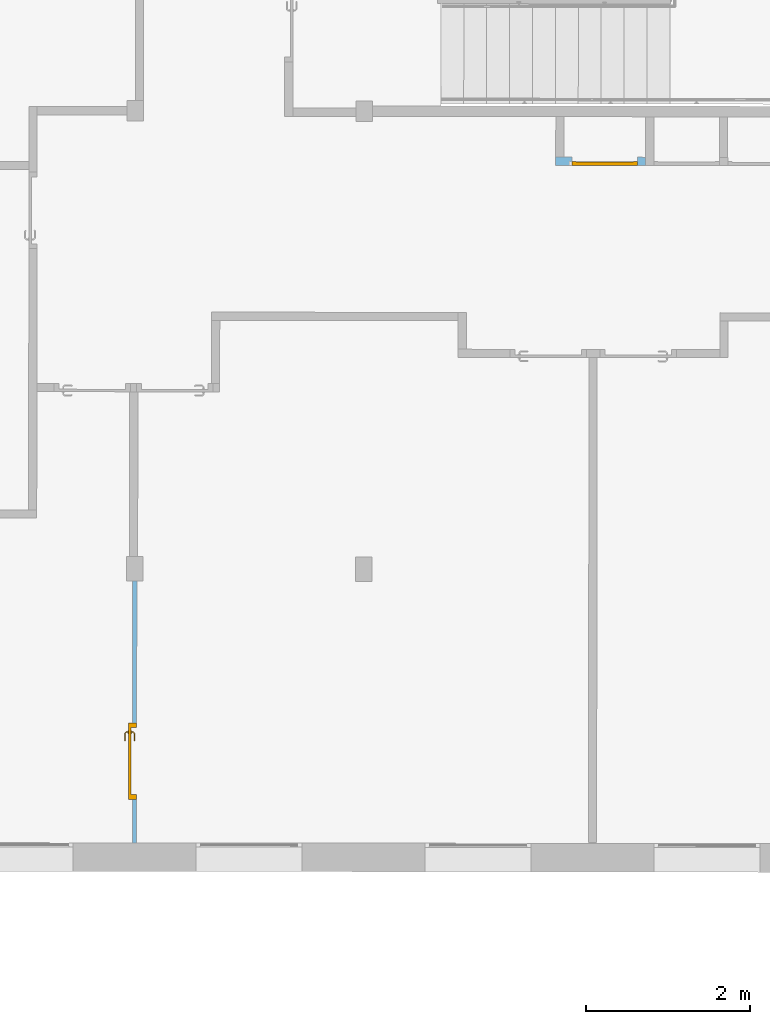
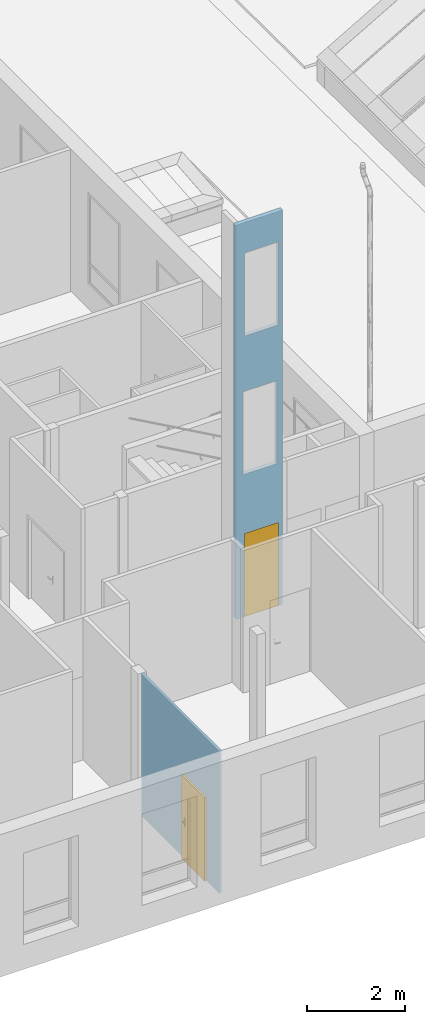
# One storey, part 91 of 101: 2 doors, 4 openings, plus 2 elements that do not belong to this part.
"""IFC2X3 building model written with IfcOpenShell, lengths in metres."""

from ifc_helpers import new_model, entity, si_unit, converted_unit, derived_unit, direction, frame, frame_2d, origin, place, context, subcontext, project, spatial, rectangle, extrude, faceted_brep, source, transform, mapped, material, material_list, layer, layer_set, layer_usage, type_object, type_shapes, element, fill, save


model = new_model("IFC2X3")

# Units and contexts
model_context = context("Model", 3, precision=1e-05, world=origin(), true_north=direction((6.123233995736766e-17, 1.0)))
body_context = subcontext(model_context, "Body", "Model", "MODEL_VIEW")
ifc_project = project(units=[si_unit("LENGTHUNIT", "METRE"), si_unit("AREAUNIT", "SQUARE_METRE"), converted_unit("PLANEANGLEUNIT", "DEGREE", entity("IfcPlaneAngleMeasure", 0.017453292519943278), si_unit("PLANEANGLEUNIT", "RADIAN"), dimensions=[0, 0, 0, 0, 0, 0, 0]), derived_unit("THERMALTRANSMITTANCEUNIT", [(si_unit("MASSUNIT", "GRAM", prefix="KILO"), 1), (si_unit("THERMODYNAMICTEMPERATUREUNIT", "KELVIN"), -1), (si_unit("TIMEUNIT", "SECOND"), -3)])], contexts=[model_context])

# Site, building, storey
site_placement = place(None, frame((1253.6752467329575, 2072.143113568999, 91.49999999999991), z_axis=(0.0, 0.0, 1.0), x_axis=(0.7237211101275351, 0.6900925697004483, 0.0)))
site = spatial("IfcSite", under=ifc_project, at=site_placement, Name="Surface", CompositionType="ELEMENT")
building_placement = place(site_placement, origin())
building = spatial("IfcBuilding", under=site, at=building_placement, CompositionType="ELEMENT")
storey_placement = place(building_placement, origin())
storey = spatial("IfcBuildingStorey", under=building, at=storey_placement, Name="0- Rdc", CompositionType="ELEMENT", Elevation=-5.764692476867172e-13)

# Wall, opening, door
ifc_material_1 = material(Name="OMD_Béton blanc")
ifc_layer_1 = layer(ifc_material_1, 0.05)
ifc_layer_set_1 = layer_set([ifc_layer_1], Name="Mur de base:MUR 5")
ifc_layer_usage_1 = layer_usage(ifc_layer_set_1, "AXIS2", "NEGATIVE", 0.025)
wall_type_1 = type_object("IfcWallType", Name="Mur de base:MUR 5", PredefinedType="STANDARD", material=ifc_layer_set_1)
wall_1_placement = place(storey_placement, frame((150.23851358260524, 2.963159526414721, 0.0), z_axis=(0.0, 0.0, 1.0), x_axis=(-0.6909838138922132, -0.7228702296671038, 0.0)))
wall_1 = element("IfcWallStandardCase", 1, at=wall_1_placement, inside=storey, type_object=wall_type_1, material=ifc_layer_usage_1, Name="Mur de base:MUR 5", ObjectType="Mur de base:MUR 5", context=body_context, shape_type="SweptSolid", body=[
    extrude(rectangle(XDim=3.1999999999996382, YDim=0.050000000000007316, at=frame_2d((1.5999999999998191, -1.5092094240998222e-16), x_axis=(-1.0, 0.0))), origin(), (0.0, 0.0, 1.0), 3.5499999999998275),
])
opening_1_placement = place(wall_1_placement, frame((2.6674999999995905, 0.025000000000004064, 0.0)))
opening_1 = element("IfcOpeningElement", 2, at=opening_1_placement, cuts=wall_1, Name="OMD_Porte 1V tunnel:80x204:1", ObjectType="Opening", context=body_context, shape_type="SweptSolid", body=[
    extrude(rectangle(XDim=2.0850000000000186, YDim=0.9349999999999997, at=frame_2d((1.0425000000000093, 0.46749999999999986), x_axis=(1.0, 0.0))), frame((0.0, 0.0, 0.0), z_axis=(0.0, -1.0, 0.0), x_axis=(0.0, 0.0, 1.0)), (0.0, 0.0, 1.0), 0.05),
])
ifc_material_2 = material(Name="Porte - Poignée")
ifc_material_3 = material(Name="OMD_Peinture mur")
ifc_material_4 = material(Name="OMD_Bois")
ifc_material_list_1 = material_list([ifc_material_2, ifc_material_3, ifc_material_4])
door_style_1 = type_object("IfcDoorStyle", Name="OMD_Porte 1V tunnel:80x204", ConstructionType="NOTDEFINED", OperationType="NOTDEFINED", ParameterTakesPrecedence=False, Sizeable=False, material=ifc_material_list_1)
shared_shape_1 = source(origin(), body_context, "Body", "Brep", [
    faceted_brep([(0.21297470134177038, -0.014999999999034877, 1.0077804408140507), (0.20900000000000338, -0.014999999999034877, 1.0069999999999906), (0.20899999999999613, -0.014999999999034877, 0.9929999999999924), (0.21297470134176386, -0.014999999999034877, 0.9922195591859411), (0.21702529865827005, -0.014999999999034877, 0.9922195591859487), (0.22100000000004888, -0.014999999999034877, 0.9930000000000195), (0.22100000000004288, -0.014999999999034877, 1.0069999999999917), (0.21702529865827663, -0.014999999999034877, 1.007780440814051), (0.2210000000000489, 0.00748520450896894, 0.9930000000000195), (0.221000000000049, 0.007485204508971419, 1.0069999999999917), (0.2170252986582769, 0.00913157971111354, 1.007780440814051), (0.23083890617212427, 0.022945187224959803, 1.007780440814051), (0.22916109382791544, 0.02699578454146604, 1.0077804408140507), (0.21297470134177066, 0.01080939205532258, 1.0077804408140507), (0.32068474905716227, 0.01646731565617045, 1.0077804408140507), (0.3235489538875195, 0.019331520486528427, 1.0077804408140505), (0.31588468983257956, 0.026995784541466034, 1.0077804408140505), (0.31420687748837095, 0.02294518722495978, 1.0077804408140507), (0.2090000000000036, 0.012455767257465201, 1.0069999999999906), (0.20900000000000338, 0.012455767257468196, 0.9929999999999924), (0.21297470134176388, 0.010809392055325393, 0.9922195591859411), (0.2291610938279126, 0.026995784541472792, 0.9922195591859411), (0.23083890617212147, 0.022945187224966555, 0.9922195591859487), (0.21702529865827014, 0.009131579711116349, 0.9922195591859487), (0.323548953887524, 0.019331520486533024, 0.9922195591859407), (0.3206847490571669, 0.016467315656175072, 0.9922195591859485), (0.3142068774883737, 0.022945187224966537, 0.9922195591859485), (0.31588468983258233, 0.02699578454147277, 0.9922195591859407), (0.2324852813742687, 0.018970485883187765, 0.9930000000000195), (0.23248528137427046, 0.018970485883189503, 1.0069999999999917), (0.2275147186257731, 0.03097048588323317, 1.0069999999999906), (0.22751471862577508, 0.03097048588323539, 0.9929999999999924), (0.2725228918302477, 0.018970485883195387, 0.9930000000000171), (0.3125605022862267, 0.01897048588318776, 0.9930000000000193), (0.31256050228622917, 0.01897048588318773, 1.0069999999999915), (0.2725228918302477, 0.01897048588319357, 1.0069999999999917), (0.272522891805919, 0.0251249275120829, 1.0078781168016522), (0.31753106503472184, 0.030970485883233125, 1.0069999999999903), (0.27760057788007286, 0.030970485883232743, 1.0069999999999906), (0.3175310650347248, 0.030970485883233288, 0.9929999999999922), (0.26744520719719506, 0.030970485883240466, 0.9929999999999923), (0.2725228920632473, 0.025124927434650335, 0.9921218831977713), (0.31787421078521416, 0.013656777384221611, 0.9930000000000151), (0.32635949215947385, 0.022142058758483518, 0.99299999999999), (0.3263594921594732, 0.022142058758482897, 1.0069999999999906), (0.3178742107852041, 0.013656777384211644, 1.0069999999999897)], [[[0, 1, 2, 3, 4, 5, 6, 7]], [[6, 5, 8, 9]], [[9, 10, 7, 6]], [[10, 11, 12, 13, 0, 7]], [[14, 15, 16, 17]], [[13, 18, 1, 0]], [[2, 1, 18, 19]], [[19, 20, 3, 2]], [[20, 21, 22, 23, 4, 3]], [[24, 25, 26, 27]], [[23, 8, 5, 4]], [[9, 8, 28, 29]], [[29, 11, 10, 9]], [[12, 30, 18, 13]], [[19, 18, 30, 31]], [[31, 21, 20, 19]], [[22, 28, 8, 23]], [[29, 28, 32, 33, 34, 35]], [[11, 35, 36]], [[16, 37, 38]], [[30, 12, 38]], [[38, 12, 36]], [[36, 35, 17]], [[17, 16, 36]], [[35, 11, 29]], [[34, 17, 35]], [[11, 36, 12]], [[38, 36, 16]], [[31, 30, 38, 37, 39, 40]], [[40, 41, 21]], [[41, 40, 27]], [[21, 31, 40]], [[39, 27, 40]], [[41, 32, 22]], [[22, 21, 41]], [[26, 32, 41]], [[28, 22, 32]], [[32, 26, 33]], [[26, 41, 27]], [[42, 25, 24, 43, 44, 15, 14, 45]], [[34, 33, 42, 45]], [[45, 14, 17, 34]], [[15, 44, 37, 16]], [[39, 37, 44, 43]], [[43, 24, 27, 39]], [[25, 42, 33, 26]]]),
    faceted_brep([(0.21297470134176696, -0.05499999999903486, 1.0077804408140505), (0.21702529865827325, -0.05499999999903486, 1.007780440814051), (0.22100000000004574, -0.05499999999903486, 1.006999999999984), (0.221000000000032, -0.05499999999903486, 0.9930000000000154), (0.21702529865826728, -0.05499999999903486, 0.9922195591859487), (0.21297470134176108, -0.05499999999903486, 0.992219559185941), (0.2090000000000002, -0.05499999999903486, 0.992999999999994), (0.20900000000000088, -0.05499999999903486, 1.0069999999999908), (0.2090000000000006, -0.08265095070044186, 1.0069999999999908), (0.21297470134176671, -0.08100457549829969, 1.0077804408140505), (0.22902358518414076, -0.09705345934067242, 1.0077804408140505), (0.23070139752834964, -0.09300286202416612, 1.007780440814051), (0.21702529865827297, -0.07932676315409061, 1.007780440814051), (0.32352181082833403, -0.08938919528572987, 1.0077804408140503), (0.3206576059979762, -0.08652499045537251, 1.0077804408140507), (0.314179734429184, -0.09300286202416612, 1.0077804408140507), (0.31585754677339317, -0.09705345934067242, 1.0077804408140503), (0.22100000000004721, -0.07768038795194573, 1.0069999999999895), (0.22100000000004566, -0.07768038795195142, 0.9930000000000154), (0.21702529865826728, -0.079326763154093, 0.9922195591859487), (0.23070139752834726, -0.09300286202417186, 0.9922195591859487), (0.22902358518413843, -0.09705345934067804, 0.992219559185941), (0.21297470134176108, -0.08100457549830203, 0.992219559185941), (0.32065760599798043, -0.08652499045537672, 0.9922195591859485), (0.32352181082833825, -0.08938919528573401, 0.9922195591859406), (0.31585754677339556, -0.09705345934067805, 0.9922195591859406), (0.31417973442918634, -0.09300286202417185, 0.9922195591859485), (0.2089999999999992, -0.08265095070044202, 0.9929999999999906), (0.22737720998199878, -0.10102816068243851, 1.0069999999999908), (0.2323477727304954, -0.08902816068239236, 1.0069999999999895), (0.23234777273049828, -0.08902816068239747, 0.9930000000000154), (0.2273772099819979, -0.10102816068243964, 0.9929999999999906), (0.2673076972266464, -0.10102816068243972, 1.0069999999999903), (0.2724405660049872, -0.09518280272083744, 1.0078781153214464), (0.31750392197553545, -0.10102816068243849, 1.0069999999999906), (0.27244056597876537, -0.08902816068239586, 1.0069999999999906), (0.312533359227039, -0.0890281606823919, 1.0069999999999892), (0.31253335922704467, -0.08902816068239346, 0.9930000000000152), (0.2724405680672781, -0.08902816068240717, 0.9930000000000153), (0.2724405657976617, -0.09518280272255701, 0.9921218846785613), (0.3175039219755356, -0.10102816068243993, 0.9929999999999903), (0.2775734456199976, -0.1010281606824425, 0.9929999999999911), (0.3178470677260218, -0.08371445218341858, 1.0069999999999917), (0.32633234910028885, -0.09219973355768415, 1.0069999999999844), (0.32633234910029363, -0.092199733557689, 0.9929999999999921), (0.31784706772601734, -0.0837144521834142, 0.9930000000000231)], [[[0, 1, 2, 3, 4, 5, 6, 7]], [[8, 9, 0, 7]], [[9, 10, 11, 12, 1, 0]], [[13, 14, 15, 16]], [[12, 17, 2, 1]], [[3, 2, 17, 18]], [[18, 19, 4, 3]], [[19, 20, 21, 22, 5, 4]], [[23, 24, 25, 26]], [[22, 27, 6, 5]], [[7, 6, 27, 8]], [[28, 10, 9, 8]], [[11, 29, 17, 12]], [[18, 17, 29, 30]], [[30, 20, 19, 18]], [[21, 31, 27, 22]], [[8, 27, 31, 28]], [[32, 33, 10]], [[33, 32, 16]], [[10, 28, 32]], [[34, 16, 32]], [[33, 35, 11]], [[11, 10, 33]], [[15, 35, 33]], [[29, 11, 35]], [[35, 15, 36]], [[15, 33, 16]], [[30, 29, 35, 36, 37, 38]], [[20, 38, 39]], [[25, 40, 41]], [[31, 21, 41]], [[41, 21, 39]], [[39, 38, 26]], [[26, 25, 39]], [[38, 20, 30]], [[37, 26, 38]], [[20, 39, 21]], [[41, 39, 25]], [[28, 31, 41, 40, 34, 32]], [[42, 14, 13, 43, 44, 24, 23, 45]], [[43, 13, 16, 34]], [[14, 42, 36, 15]], [[37, 36, 42, 45]], [[45, 23, 26, 37]], [[24, 44, 40, 25]], [[34, 40, 44, 43]]]),
    faceted_brep([(0.2253527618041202, -0.019999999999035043, 0.8660039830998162), (0.23500000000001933, -0.019999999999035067, 0.8700000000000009), (0.23500000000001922, -0.019999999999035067, 1.0800000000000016), (0.22535276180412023, -0.019999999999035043, 1.0839960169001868), (0.2150000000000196, -0.01999999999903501, 1.0853589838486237), (0.20464723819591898, -0.019999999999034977, 1.0839960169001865), (0.19500000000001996, -0.019999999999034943, 1.0800000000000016), (0.1950000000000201, -0.019999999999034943, 0.8700000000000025), (0.2046472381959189, -0.019999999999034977, 0.866003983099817), (0.21500000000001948, -0.01999999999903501, 0.8646410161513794), (0.22535276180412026, -0.014999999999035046, 1.0839960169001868), (0.23500000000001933, -0.014999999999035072, 1.0800000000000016), (0.23500000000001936, -0.014999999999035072, 0.8700000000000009), (0.2253527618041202, -0.014999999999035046, 0.8660039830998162), (0.2150000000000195, -0.014999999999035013, 0.8646410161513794), (0.20464723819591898, -0.014999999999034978, 0.866003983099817), (0.19500000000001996, -0.014999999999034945, 0.8700000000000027), (0.19500000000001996, -0.014999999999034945, 1.0800000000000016), (0.20464723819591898, -0.014999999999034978, 1.0839960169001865), (0.21500000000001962, -0.014999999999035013, 1.0853589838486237)], [[[0, 1, 2, 3, 4, 5, 6, 7, 8, 9]], [[10, 11, 12, 13, 14, 15, 16, 17, 18, 19]], [[11, 10, 3, 2]], [[3, 10, 19, 4]], [[19, 18, 5, 4]], [[18, 17, 6, 5]], [[7, 6, 17, 16]], [[16, 15, 8, 7]], [[8, 15, 14, 9]], [[14, 13, 0, 9]], [[13, 12, 1, 0]], [[2, 1, 12, 11]]]),
    faceted_brep([(0.22535276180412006, -0.054999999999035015, 0.8660039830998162), (0.23500000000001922, -0.05499999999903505, 0.8700000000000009), (0.23500000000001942, -0.05499999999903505, 1.0800000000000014), (0.2253527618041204, -0.054999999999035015, 1.0839960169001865), (0.21500000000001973, -0.05499999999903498, 1.0853589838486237), (0.20464723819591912, -0.054999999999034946, 1.0839960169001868), (0.19500000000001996, -0.05499999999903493, 1.0800000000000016), (0.19500000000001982, -0.05499999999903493, 0.8700000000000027), (0.2046472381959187, -0.054999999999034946, 0.8660039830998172), (0.21500000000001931, -0.05499999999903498, 0.8646410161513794), (0.2253527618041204, -0.049999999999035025, 1.0839960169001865), (0.23500000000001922, -0.04999999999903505, 1.0800000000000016), (0.23500000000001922, -0.04999999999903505, 0.8700000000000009), (0.22535276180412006, -0.049999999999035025, 0.8660039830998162), (0.21500000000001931, -0.04999999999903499, 0.8646410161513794), (0.2046472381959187, -0.049999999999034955, 0.8660039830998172), (0.19500000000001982, -0.04999999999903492, 0.8700000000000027), (0.19500000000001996, -0.04999999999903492, 1.0800000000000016), (0.20464723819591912, -0.049999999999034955, 1.0839960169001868), (0.21500000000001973, -0.04999999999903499, 1.0853589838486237)], [[[0, 1, 2, 3, 4, 5, 6, 7, 8, 9]], [[10, 11, 12, 13, 14, 15, 16, 17, 18, 19]], [[16, 15, 8, 7]], [[8, 15, 14, 9]], [[14, 13, 0, 9]], [[13, 12, 1, 0]], [[2, 1, 12, 11]], [[11, 10, 3, 2]], [[3, 10, 19, 4]], [[19, 18, 5, 4]], [[18, 17, 6, 5]], [[7, 6, 17, 16]]]),
    faceted_brep([(0.1450000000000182, -0.019999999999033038, 0.0), (0.9900000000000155, -0.019999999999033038, 0.0), (0.9900000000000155, -0.04999999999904, 0.0), (0.1450000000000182, -0.04999999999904, 0.0), (0.1450000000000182, -0.019999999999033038, 2.04), (0.1450000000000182, -0.04999999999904, 2.04), (0.9900000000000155, -0.04999999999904, 2.04), (0.9900000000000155, -0.019999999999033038, 2.04)], [[[0, 1, 2, 3]], [[4, 0, 3, 5]], [[5, 3, 2, 6]], [[6, 2, 1, 7]], [[7, 1, 0, 4]], [[4, 5, 6, 7]]]),
    faceted_brep([(0.10000000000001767, -0.04999999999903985, 0.0), (0.10000000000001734, 0.05000000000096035, 0.0), (0.16000000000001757, 0.05000000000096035, 0.0), (0.16000000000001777, -0.019999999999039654, 0.0), (0.1450000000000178, -0.019999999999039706, 0.0), (0.1450000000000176, -0.049999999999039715, 0.0), (0.14500000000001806, -0.0499999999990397, 2.04), (0.9900000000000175, -0.04999999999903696, 2.0399999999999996), (0.9900000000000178, -0.04999999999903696, 0.0), (1.035000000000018, -0.04999999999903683, 0.0), (1.0350000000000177, -0.04999999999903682, 2.085), (0.10000000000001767, -0.04999999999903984, 2.0850000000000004), (0.14500000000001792, -0.01999999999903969, 2.04), (0.16000000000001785, -0.019999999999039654, 2.0250000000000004), (0.9750000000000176, -0.019999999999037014, 2.0250000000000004), (0.9750000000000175, -0.019999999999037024, 0.0), (0.9900000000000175, -0.019999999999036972, 0.0), (0.9900000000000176, -0.019999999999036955, 2.04), (0.16000000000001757, 0.05000000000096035, 2.0250000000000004), (0.10000000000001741, 0.05000000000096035, 2.0850000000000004), (1.0350000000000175, 0.050000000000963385, 2.0850000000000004), (1.0350000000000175, 0.05000000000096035, 0.0), (0.9750000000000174, 0.05000000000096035, 0.0), (0.9750000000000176, 0.05000000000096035, 2.0250000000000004)], [[[0, 1, 2, 3, 4, 5]], [[5, 6, 7, 8, 9, 10, 11, 0]], [[4, 12, 6, 5]], [[3, 13, 14, 15, 16, 17, 12, 4]], [[2, 18, 13, 3]], [[1, 19, 20, 21, 22, 23, 18, 2]], [[0, 11, 19, 1]], [[10, 9, 21, 20]], [[9, 8, 16, 15, 22, 21]], [[17, 16, 8, 7]], [[23, 22, 15, 14]], [[12, 17, 7, 6]], [[18, 23, 14, 13]], [[11, 10, 20, 19]]]),
])
type_shapes(door_style_1, [shared_shape_1])
door_1_placement = place(opening_1_placement, frame((-1.0350000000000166, -0.049999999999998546, 0.0)))
door_1 = element("IfcDoor", 3, at=door_1_placement, inside=storey, type_object=door_style_1, material=ifc_material_list_1, Name="OMD_Porte 1V tunnel:80x204", ObjectType="OMD_Porte 1V tunnel:80x204", OverallHeight=2.0850000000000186, OverallWidth=0.9350000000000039, context=body_context, shape_type="MappedRepresentation", body=[
    mapped(shared_shape_1, transform((0.0, 0.0, 0.0), scale=1.0)),
])
fill(opening_1, door_1)

# Wall, openings, door
ifc_material_5 = material(Name="OMD_Cloison 100mm")
ifc_layer_2 = layer(ifc_material_5, 0.1)
ifc_layer_set_2 = layer_set([ifc_layer_2], Name="Mur de base:Cloison 100mm")
ifc_layer_usage_2 = layer_usage(ifc_layer_set_2, "AXIS2", "NEGATIVE", 0.05)
wall_type_2 = type_object("IfcWallType", Name="Mur de base:Cloison 100mm", PredefinedType="STANDARD", material=ifc_layer_set_2)
wall_2_placement = place(storey_placement, frame((158.30088061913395, 2.366973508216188, 0.0), z_axis=(0.0, 0.0, 1.0), x_axis=(-0.7228702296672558, 0.6909838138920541, 0.0)))
wall_2 = element("IfcWallStandardCase", 4, at=wall_2_placement, inside=storey, type_object=wall_type_2, material=ifc_layer_usage_2, Name="Mur de base:Cloison 100mm", ObjectType="Mur de base:Cloison 100mm", context=body_context, shape_type="SweptSolid", body=[
    extrude(rectangle(XDim=1.1000000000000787, YDim=0.1000000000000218, at=frame_2d((0.5500000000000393, -1.1796119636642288e-16), x_axis=(-1.0, 0.0))), origin(), (0.0, 0.0, 1.0), 9.83000000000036),
])
opening_2_placement = place(wall_2_placement, frame((0.9000000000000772, 0.05000000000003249, 0.0)))
opening_2 = element("IfcOpeningElement", 5, at=opening_2_placement, cuts=wall_2, Name="Grz_Placard 1V:80X204:1", ObjectType="Opening", context=body_context, shape_type="SweptSolid", body=[
    extrude(rectangle(XDim=2.0749999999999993, YDim=0.8, at=frame_2d((1.0374999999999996, 0.40000000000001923), x_axis=(1.0, 0.0))), frame((0.0, 0.0, 0.0), z_axis=(0.0, -1.0, 0.0), x_axis=(0.0, 0.0, 1.0)), (0.0, 0.0, 1.0), 0.1),
])
opening_3_placement = place(wall_2_placement, frame((0.9400000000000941, 0.05000000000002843, 3.549999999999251)))
element("IfcOpeningElement", 6, at=opening_3_placement, cuts=wall_2, Name="Grz_Placard 1V:80X204:1", ObjectType="Opening", context=body_context, shape_type="SweptSolid", body=[
    extrude(rectangle(XDim=2.0749999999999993, YDim=0.8, at=frame_2d((1.0374999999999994, 0.4), x_axis=(1.0, 0.0))), frame((0.0, 0.0, 0.0), z_axis=(0.0, -1.0, 0.0), x_axis=(0.0, 0.0, 1.0)), (0.0, 0.0, 1.0), 0.1),
])
opening_4_placement = place(wall_2_placement, frame((0.9000000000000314, 0.050000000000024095, 7.0)))
element("IfcOpeningElement", 7, at=opening_4_placement, cuts=wall_2, Name="Grz_Placard 1V:80X204:1", ObjectType="Opening", context=body_context, shape_type="SweptSolid", body=[
    extrude(rectangle(XDim=2.0749999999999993, YDim=0.8, at=frame_2d((1.0374999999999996, 0.4), x_axis=(1.0, 0.0))), frame((0.0, 0.0, 0.0), z_axis=(0.0, -1.0, 0.0), x_axis=(0.0, 0.0, 1.0)), (0.0, 0.0, 1.0), 0.1),
])
ifc_material_6 = material(Name="Porte - Panneau")
ifc_material_7 = material(Name="Porte - Cadre")
ifc_material_list_2 = material_list([ifc_material_6, ifc_material_7])
door_style_2 = type_object("IfcDoorStyle", Name="Grz_Placard 1V:80X204", ConstructionType="NOTDEFINED", OperationType="DOUBLE_DOOR_SINGLE_SWING", ParameterTakesPrecedence=False, Sizeable=False, material=ifc_material_list_2)
shared_shape_2 = source(origin(), body_context, "Body", "Brep", [
    faceted_brep([(0.7550000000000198, 0.0, 2.04), (0.02500000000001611, 0.0, 2.04), (0.02500000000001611, 0.0, 0.0), (0.7550000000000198, 0.0, 0.0), (0.7550000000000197, 0.040000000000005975, 0.0), (0.7550000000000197, 0.040000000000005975, 2.04), (0.025000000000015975, 0.04000000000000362, 0.0), (0.025000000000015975, 0.04000000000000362, 2.04)], [[[0, 1, 2, 3]], [[3, 4, 5, 0]], [[2, 6, 4, 3]], [[1, 7, 6, 2]], [[5, 4, 6, 7]], [[0, 5, 7, 1]]]),
    faceted_brep([(0.790000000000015, 0.050000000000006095, 0.0), (0.7900000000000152, 0.0, 0.0), (0.7550000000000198, 0.0, 0.0), (0.7550000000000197, 0.04000000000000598, 0.0), (0.7400000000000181, 0.040000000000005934, 0.0), (0.7400000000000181, 0.05000000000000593, 0.0), (0.7400000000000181, 0.05000000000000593, 2.025000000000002), (0.040000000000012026, 0.05000000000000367, 2.025000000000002), (0.040000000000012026, 0.05000000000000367, 0.0), (-0.009999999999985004, 0.05000000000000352, 0.0), (-0.009999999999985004, 0.05000000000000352, 2.0749999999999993), (0.790000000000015, 0.050000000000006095, 2.0749999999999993), (0.7400000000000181, 0.040000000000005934, 2.025000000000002), (0.7550000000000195, 0.04000000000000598, 2.0400000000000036), (0.02500000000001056, 0.04000000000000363, 2.0400000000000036), (0.025000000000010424, 0.04000000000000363, 0.0), (0.040000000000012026, 0.040000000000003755, 0.0), (0.040000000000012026, 0.040000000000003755, 2.025000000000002), (0.7550000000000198, 0.0, 2.0400000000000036), (0.790000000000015, 0.0, 2.0749999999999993), (-0.009999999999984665, 0.0, 2.074999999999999), (-0.009999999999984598, 0.0, 0.0), (0.02500000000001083, 0.0, 0.0), (0.02500000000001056, 0.0, 2.0400000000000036)], [[[0, 1, 2, 3, 4, 5]], [[5, 6, 7, 8, 9, 10, 11, 0]], [[4, 12, 6, 5]], [[3, 13, 14, 15, 16, 17, 12, 4]], [[2, 18, 13, 3]], [[1, 19, 20, 21, 22, 23, 18, 2]], [[0, 11, 19, 1]], [[10, 9, 21, 20]], [[9, 8, 16, 15, 22, 21]], [[17, 16, 8, 7]], [[23, 22, 15, 14]], [[12, 17, 7, 6]], [[18, 23, 14, 13]], [[11, 10, 20, 19]]]),
])
type_shapes(door_style_2, [shared_shape_2])
door_2_placement = place(opening_2_placement, frame((-0.010000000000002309, 0.0, 0.0), z_axis=(0.0, 0.0, 1.0), x_axis=(-1.0, 0.0, 0.0)))
door_2 = element("IfcDoor", 8, at=door_2_placement, inside=storey, type_object=door_style_2, material=ifc_material_list_2, Name="Grz_Placard 1V:80X204", ObjectType="Grz_Placard 1V:80X204", OverallHeight=2.0749999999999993, OverallWidth=0.7999999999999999, context=body_context, shape_type="MappedRepresentation", body=[
    mapped(shared_shape_2, transform((0.0, 0.0, 0.0), scale=1.0)),
])
fill(opening_2, door_2)

save(model, "model.ifc")
